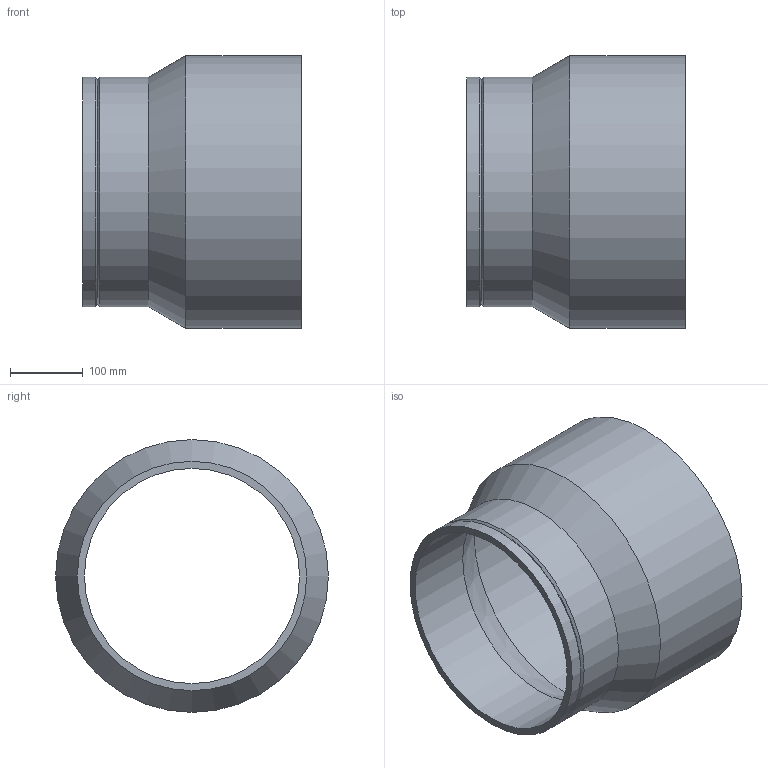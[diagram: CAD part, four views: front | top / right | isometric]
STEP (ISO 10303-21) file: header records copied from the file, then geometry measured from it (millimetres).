
FILE_DESCRIPTION(/* description */ (''),/* implementation_level */ '2;1');
FILE_NAME(/* name */ 'Z:\Geberit\Export\NewStep\372550.stp',/* time_stamp */ '2014-04-02T08:06:54+02:00',/* author */ ('nelson'),/* organization */ (''),/* preprocessor_version */ 'ST-DEVELOPER v15.2',/* originating_system */ 'Autodesk Inventor 2014',/* authorisation */ '');
FILE_SCHEMA (('AUTOMOTIVE_DESIGN { 1 0 10303 214 3 1 1 }'));
Length unit declared in the file: millimetre
Products named in the file (1): 372550
Bounding box: 300 x 374.6 x 374.6 mm (x, y, z)
Volume: 3227087.6 mm3; surface area: 683701.8 mm2
Topology: 1 solids, 1 shells, 11 faces, 20 edges, 11 vertices
Faces by surface type: cylinder 5, cone 4, plane 2
Full cylindrical faces by diameter (mm): 295.4 x1, 315 x2, 355 x1, 374.6 x1
Entity records: 249 total; most frequent: DIRECTION 46, CARTESIAN_POINT 34, AXIS2_PLACEMENT_3D 23, EDGE_LOOP 22, ORIENTED_EDGE 22, FACE_BOUND 12, CIRCLE 11, VERTEX_POINT 11
